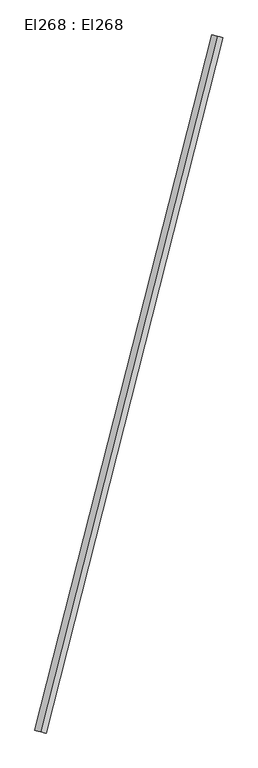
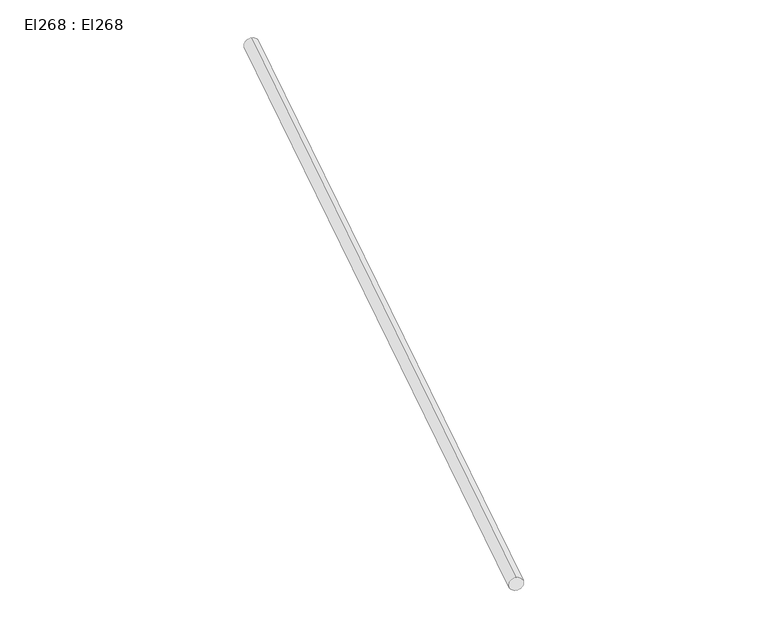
"""IFC4 building model written with IfcOpenShell, lengths in millimetres: cable carrier segment geometry, El268 : El268."""

from ifc_helpers import new_model, si_unit, point, frame, frame_2d, origin, place, context, project, spatial, circle_curve, trimmed, segment, composite_curve, outline, extrude, source, transform, mapped, element, save


def el268_el268_94813c6a(model_context):
    return source(origin(), model_context, "Body", "SweptSolid", [
        extrude(outline(composite_curve([segment(trimmed(circle_curve(frame_2d((0.0, -12.0)), 12.0), [point((0.0, -24.0))], [point((0.0, 0.0))], False, "CARTESIAN"), True, "CONTINUOUS"), segment(trimmed(circle_curve(frame_2d((0.0, -12.0)), 12.0), [point((0.0, 0.0))], [point((0.0, -24.0))], False, "CARTESIAN"), True, "CONTINUOUS")], self_intersect=False)), frame((11240.495, 29102.732, 2962.0), z_axis=(0.2470050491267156, 0.9690141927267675, 0.0), x_axis=(-0.9690141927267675, 0.2470050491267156, 0.0)), (0.0, 0.0, 1.0), 1489.08),
    ])


if __name__ == "__main__":
    model = new_model("IFC4")
    model_context = context("Model", 3, world=origin())
    ifc_project = project(units=[si_unit("LENGTHUNIT", "METRE", prefix="MILLI")], contexts=[model_context])
    site = spatial("IfcSite", under=ifc_project)
    building = spatial("IfcBuilding", under=site)
    placement = place(None, origin())
    el268_el268_shape = el268_el268_94813c6a(model_context)
    element("IfcCableCarrierSegment", 1, ObjectType="El268 : El268", at=placement, inside=building, context=model_context, shape_type="MappedRepresentation", body=[
        mapped(el268_el268_shape, transform((0.0, 0.0, 0.0), x_axis=(1.0, 0.0, 0.0), y_axis=(0.0, 1.0, 0.0), z_axis=(0.0, 0.0, 1.0))),
    ])
    save(model, "model.ifc")
